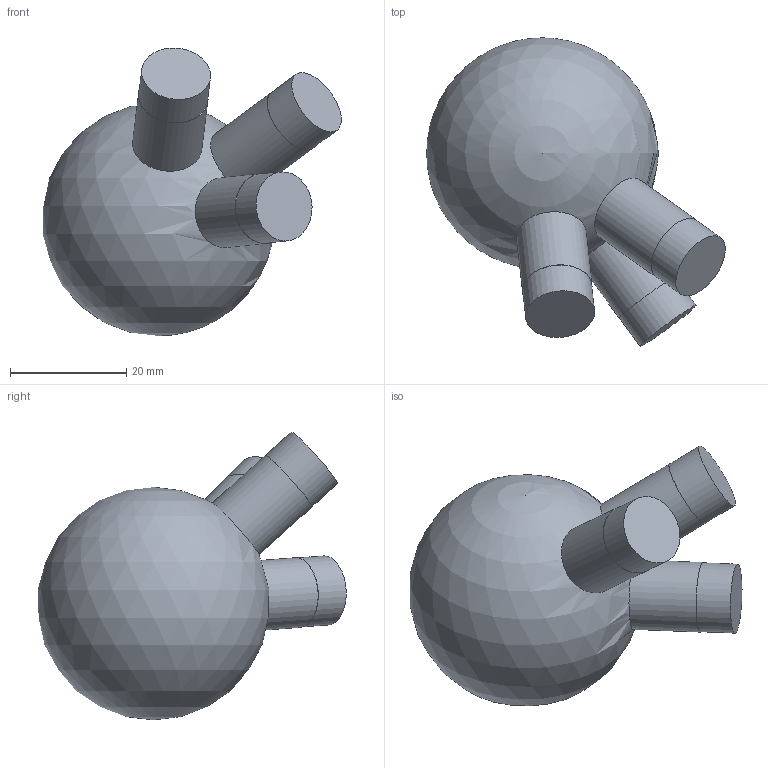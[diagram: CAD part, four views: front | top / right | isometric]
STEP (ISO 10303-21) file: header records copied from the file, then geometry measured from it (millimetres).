
FILE_DESCRIPTION(('Open CASCADE Model'),'2;1');
FILE_NAME('Open CASCADE Shape Model','2026-10-21T12:47:57',('Author'),( 'Open CASCADE'),'Open CASCADE STEP processor 7.9','Open CASCADE 7.9' ,'Unknown');
FILE_SCHEMA(('AUTOMOTIVE_DESIGN { 1 0 10303 214 1 1 1 1 }'));
Length unit declared in the file: millimetre
Products named in the file (1): Open CASCADE STEP translator 7.9 169
Bounding box: 51.33 x 53 x 49.47 mm (x, y, z)
Volume: 39654.1 mm3; surface area: 7118.8 mm2
Topology: 1 solids, 1 shells, 13 faces, 25 edges, 17 vertices
Faces by surface type: cylinder 6, plane 6, sphere 1
Full cylindrical faces by diameter (mm): 11.9 x3, 12 x3
Entity records: 947 total; most frequent: CARTESIAN_POINT 441, DIRECTION 101, ORIENTED_EDGE 44, PCURVE 44, DEFINITIONAL_REPRESENTATION 44, LINE 32, VECTOR 32, AXIS2_PLACEMENT_3D 30
